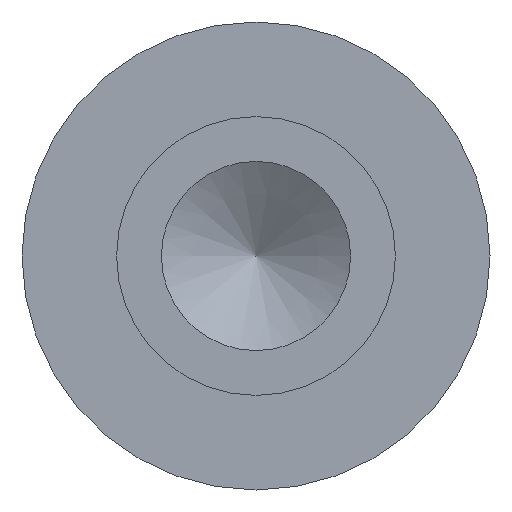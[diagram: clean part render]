
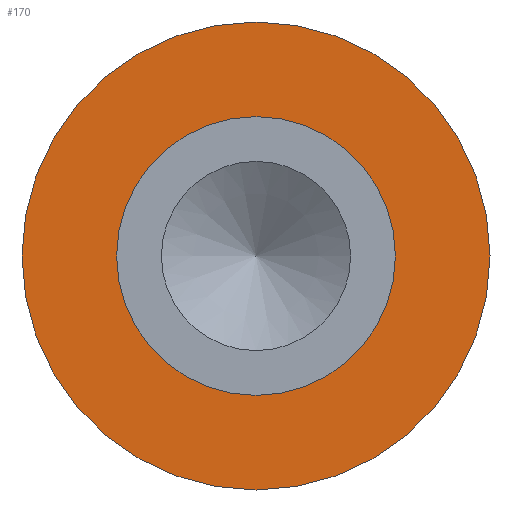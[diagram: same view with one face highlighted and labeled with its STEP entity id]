
A CAD part, left-side view. The second image highlights one B-rep face of the part: STEP entity #170.
In plain terms, the highlighted planar face has unit normal (-1, 0, 0).
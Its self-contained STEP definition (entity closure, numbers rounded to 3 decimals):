
#14=PLANE($,#197);
#33=FACE_BOUND($,#69,.T.);
#49=FACE_OUTER_BOUND($,#68,.T.);
#68=EDGE_LOOP($,(#143));
#69=EDGE_LOOP($,(#144));
#89=CIRCLE($,#187,2.388);
#93=CIRCLE($,#195,1.422);
#104=VERTEX_POINT($,#285);
#108=VERTEX_POINT($,#297);
#119=EDGE_CURVE($,#104,#104,#89,.T.);
#123=EDGE_CURVE($,#108,#108,#93,.T.);
#143=ORIENTED_EDGE($,*,*,#119,.F.);
#144=ORIENTED_EDGE($,*,*,#123,.T.);
#170=ADVANCED_FACE($,(#49,#33),#14,.T.);
#187=AXIS2_PLACEMENT_3D($,#286,#224,#225);
#195=AXIS2_PLACEMENT_3D($,#298,#240,#241);
#197=AXIS2_PLACEMENT_3D($,#301,#244,#245);
#224=DIRECTION('center_axis',(1.,0.,0.));
#225=DIRECTION('ref_axis',(0.,1.,0.));
#240=DIRECTION('center_axis',(1.,0.,0.));
#241=DIRECTION('ref_axis',(0.,1.,0.));
#244=DIRECTION('center_axis',(-1.,0.,0.));
#245=DIRECTION('ref_axis',(0.,0.,1.));
#285=CARTESIAN_POINT('',(3.58,2.388,0.));
#286=CARTESIAN_POINT('Origin',(3.58,0.,0.));
#297=CARTESIAN_POINT('',(3.58,1.422,0.));
#298=CARTESIAN_POINT('Origin',(3.58,0.,0.));
#301=CARTESIAN_POINT('Origin',(3.58,1.905,0.));
